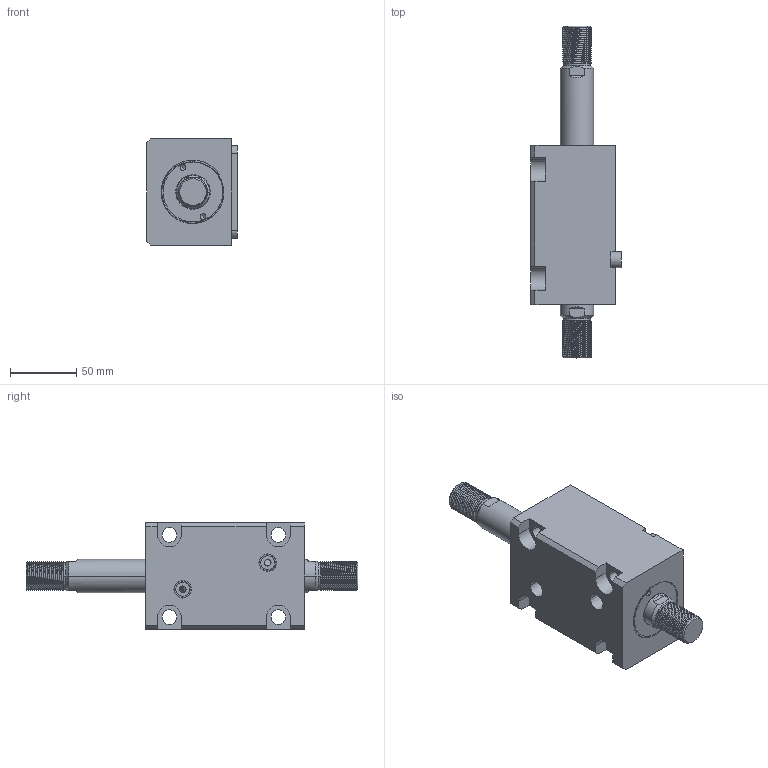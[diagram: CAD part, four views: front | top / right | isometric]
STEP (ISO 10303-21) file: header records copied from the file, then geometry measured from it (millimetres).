
FILE_DESCRIPTION (( 'STEP AP214' ), '1' );
FILE_NAME ('chtb-lw40x50w_asm.STEP', '2018-06-04T08:05:03', ( 'Windows' ), ( 'Microsoft' ), 'SwSTEP 2.0', 'SolidWorks 2015', '' );
FILE_SCHEMA (( 'AUTOMOTIVE_DESIGN' ));
Length unit declared in the file: millimetre
Products named in the file (5): CHTB-SW40X50NHSG; CHTB-SD40QG; CHTB-LW40X50NBT; CHTB-LA40PJ; chtb-lw40x50w_asm
Assembly tree (4 placements, depth 2):
  chtb-lw40x50w_asm
    CHTB-LA40PJ
    CHTB-LW40X50NBT
    CHTB-SD40QG
    CHTB-SW40X50NHSG
Bounding box: 68.5 x 250 x 80 mm (x, y, z)
Volume: 595263.2 mm3; surface area: 105534.5 mm2
Topology: 4 solids, 4 shells, 258 faces, 711 edges, 473 vertices
Faces by surface type: cylinder 152, plane 59, bspline 18, cone 17, torus 12
Entity records: 17539 total; most frequent: CARTESIAN_POINT 11292, ORIENTED_EDGE 1410, DIRECTION 1124, EDGE_CURVE 705, VERTEX_POINT 473, AXIS2_PLACEMENT_3D 433, EDGE_LOOP 292, FACE_OUTER_BOUND 258
